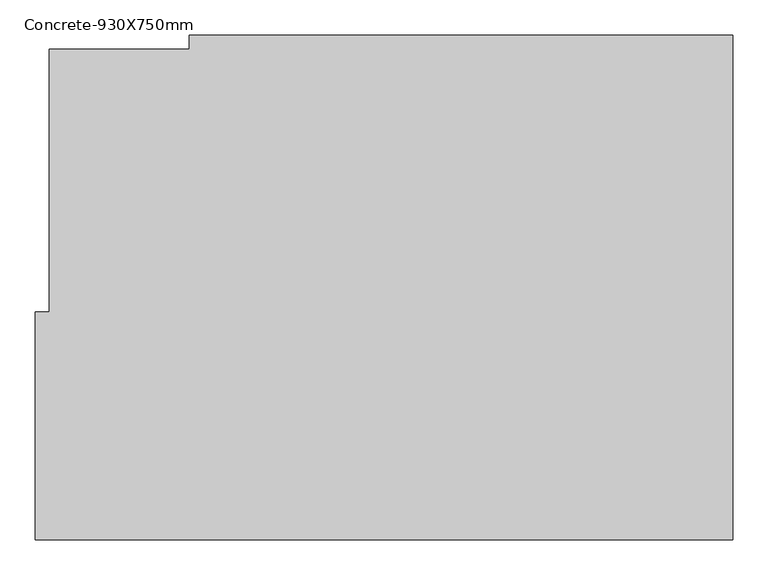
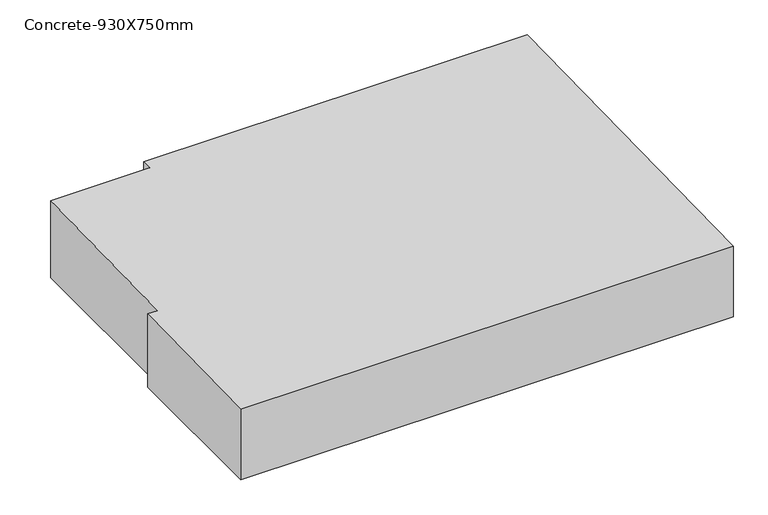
"""IFC4 building model written with IfcOpenShell, lengths in millimetres: proxy geometry, GMD-OTR-HAA-AC_Platform-Type4-Concrete : Concrete-930X750mm."""

from ifc_helpers import new_model, si_unit, origin, place, context, project, spatial, faceted_brep, source, transform, mapped, element, save


def concrete_930x750mm_175e94f5(model_context):
    return source(origin(), model_context, "Body", "Brep", [
        faceted_brep([(995.0, 0.0, 1800.0), (995.0, -720.0, 1800.0), (0.0, -720.0, 1800.0), (0.0, -395.0, 1800.0), (20.0, -395.0, 1800.0), (20.0, -20.0, 1800.0), (60.0, -20.0, 1800.0), (60.0, -660.0, 1800.0), (935.0, -660.0, 1800.0), (935.0, 0.0, 1800.0), (220.0, -20.0, 1800.0), (220.0, 0.0, 1800.0), (915.0, 0.0, 1800.0), (915.0, -640.0, 1800.0), (80.0, -640.0, 1800.0), (80.0, -20.0, 1800.0), (995.0, 0.0, 1965.0), (927.0, 0.0, 1812.0), (915.0, 0.0, 1812.0), (220.0, 0.0, 1965.0), (0.0, -720.0, 1950.0), (0.0, -395.0, 1956.7708333), (995.0, -720.0, 1950.0), (80.0, -640.0, 1812.0), (80.0, -20.0, 1812.0), (68.0, -652.0, 1812.0), (68.0, -20.0, 1812.0), (915.0, -640.0, 1812.0), (927.0, -652.0, 1812.0), (220.0, -20.0, 1964.5833333), (20.0, -20.0, 1964.5833333), (20.0, -395.0, 1956.7708333)], [[[0, 1, 2, 3, 4, 5, 6, 7, 8, 9]], [[10, 11, 12, 13, 14, 15]], [[16, 0, 9, 17, 18, 12, 11, 19]], [[3, 2, 20, 21]], [[2, 1, 22, 20]], [[1, 0, 16, 22]], [[14, 23, 24, 15]], [[25, 7, 6, 26]], [[23, 27, 18, 17, 28, 25, 26, 24]], [[23, 14, 13, 27]], [[7, 25, 28, 8]], [[18, 27, 13, 12]], [[28, 17, 9, 8]], [[11, 10, 29, 19]], [[10, 15, 24, 26, 6, 5, 30, 29]], [[16, 19, 29, 30, 31, 21, 20, 22]], [[5, 4, 31, 30]], [[4, 3, 21, 31]]]),
    ])


if __name__ == "__main__":
    model = new_model("IFC4")
    model_context = context("Model", 3, world=origin())
    ifc_project = project(units=[si_unit("LENGTHUNIT", "METRE", prefix="MILLI")], contexts=[model_context])
    site = spatial("IfcSite", under=ifc_project)
    building = spatial("IfcBuilding", under=site)
    placement = place(None, origin())
    concrete_930x750mm_shape = concrete_930x750mm_175e94f5(model_context)
    element("IfcBuildingElementProxy", 1, Name="GMD-OTR-HAA-AC_Platform-Type4-Concrete : Concrete-930X750mm", ObjectType="GMD-OTR-HAA-AC_Platform-Type4-Concrete : Concrete-930X750mm", at=placement, inside=building, context=model_context, shape_type="MappedRepresentation", body=[
        mapped(concrete_930x750mm_shape, transform((0.0, 0.0, 0.0), x_axis=(1.0, 0.0, 0.0), y_axis=(0.0, 1.0, 0.0), z_axis=(0.0, 0.0, 1.0))),
    ])
    save(model, "model.ifc")
